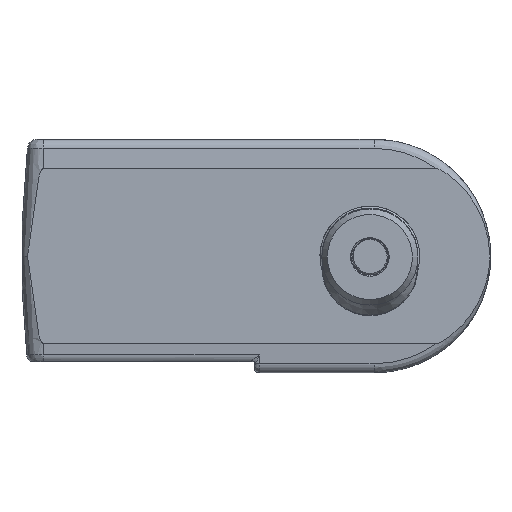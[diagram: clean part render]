
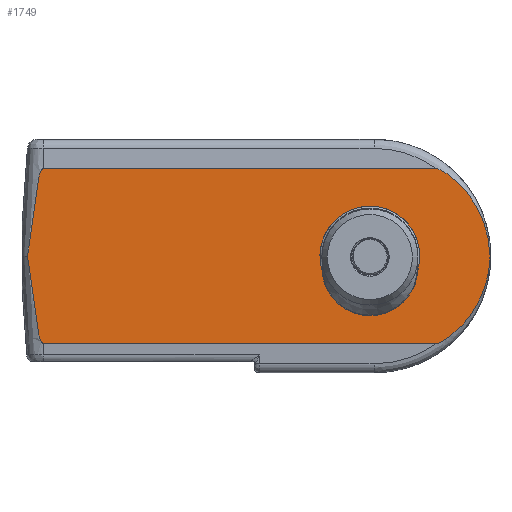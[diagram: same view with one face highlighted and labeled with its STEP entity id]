
A CAD part, front view. The second image highlights one B-rep face of the part: STEP entity #1749.
In plain terms, the highlighted planar face has unit normal (0, -1, 0).
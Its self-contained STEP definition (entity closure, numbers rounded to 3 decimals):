
#306=ELLIPSE('',#18557,55.796,55.66);
#309=ELLIPSE('',#18584,55.796,55.66);
#1749=ADVANCED_FACE('',(#4622,#4623),#2715,.F.);
#2715=PLANE('',#18585);
#3196=B_SPLINE_CURVE_WITH_KNOTS('',3,(#23629,#23630,#23631,#23632,#23633,
#23634,#23635,#23636,#23637,#23638,#23639,#23640,#23641,#23642,#23643,#23644),
 .UNSPECIFIED.,.F.,.F.,(4,2,2,2,2,2,2,4),(0.,0.5,0.75,0.875,0.938,0.969,
0.984,1.),.UNSPECIFIED.);
#3216=B_SPLINE_CURVE_WITH_KNOTS('',3,(#23919,#23920,#23921,#23922,#23923,
#23924,#23925,#23926,#23927,#23928,#23929,#23930,#23931,#23932,#23933,#23934),
 .UNSPECIFIED.,.F.,.F.,(4,2,2,2,2,2,2,4),(0.,0.031,0.063,
0.125,0.25,0.5,0.75,1.),.UNSPECIFIED.);
#3237=B_SPLINE_CURVE_WITH_KNOTS('',3,(#24457,#24458,#24459,#24460,#24461,
#24462,#24463,#24464,#24465,#24466,#24467,#24468,#24469,#24470,#24471,#24472),
 .UNSPECIFIED.,.F.,.F.,(4,2,2,2,2,2,2,4),(0.,0.25,0.5,0.75,0.875,0.938,
0.969,1.),.UNSPECIFIED.);
#3238=B_SPLINE_CURVE_WITH_KNOTS('',3,(#24478,#24479,#24480,#24481,#24482,
#24483,#24484,#24485,#24486,#24487,#24488,#24489,#24490,#24491,#24492,#24493),
 .UNSPECIFIED.,.F.,.F.,(4,2,2,2,2,2,2,4),(0.,0.5,0.75,0.875,0.938,0.969,
0.984,1.),.UNSPECIFIED.);
#4622=FACE_BOUND('',#4961,.T.);
#4623=FACE_BOUND('',#4962,.T.);
#4961=EDGE_LOOP('',(#9123));
#4962=EDGE_LOOP('',(#9124,#9125,#9126,#9127,#9128,#9129,#9130,#9131,#9132));
#6141=LINE('',#23522,#7286);
#6180=LINE('',#24453,#7325);
#6181=LINE('',#24476,#7326);
#7286=VECTOR('',#19582,1.);
#7325=VECTOR('',#19751,1.);
#7326=VECTOR('',#19758,1.);
#9123=ORIENTED_EDGE('',*,*,#15886,.F.);
#9124=ORIENTED_EDGE('',*,*,#15844,.T.);
#9125=ORIENTED_EDGE('',*,*,#15843,.T.);
#9126=ORIENTED_EDGE('',*,*,#15885,.T.);
#9127=ORIENTED_EDGE('',*,*,#15887,.T.);
#9128=ORIENTED_EDGE('',*,*,#15888,.T.);
#9129=ORIENTED_EDGE('',*,*,#15889,.F.);
#9130=ORIENTED_EDGE('',*,*,#15890,.F.);
#9131=ORIENTED_EDGE('',*,*,#15807,.T.);
#9132=ORIENTED_EDGE('',*,*,#15767,.T.);
#14034=VERTEX_POINT('',#23523);
#14035=VERTEX_POINT('',#23524);
#14066=VERTEX_POINT('',#23645);
#14083=VERTEX_POINT('',#23935);
#14084=VERTEX_POINT('',#23936);
#14098=VERTEX_POINT('',#24452);
#14099=VERTEX_POINT('',#24456);
#14100=VERTEX_POINT('',#24473);
#14101=VERTEX_POINT('',#24475);
#14102=VERTEX_POINT('',#24477);
#15767=EDGE_CURVE('',#14034,#14035,#6141,.T.);
#15807=EDGE_CURVE('',#14066,#14034,#3196,.T.);
#15843=EDGE_CURVE('',#14083,#14084,#3216,.T.);
#15844=EDGE_CURVE('',#14035,#14083,#306,.T.);
#15885=EDGE_CURVE('',#14084,#14098,#6180,.T.);
#15886=EDGE_CURVE('',#14099,#14099,#18246,.T.);
#15887=EDGE_CURVE('',#14098,#14100,#3237,.T.);
#15888=EDGE_CURVE('',#14100,#14101,#309,.T.);
#15889=EDGE_CURVE('',#14102,#14101,#6181,.T.);
#15890=EDGE_CURVE('',#14066,#14102,#3238,.T.);
#18246=CIRCLE('',#18583,26.);
#18557=AXIS2_PLACEMENT_3D('',#23937,#19695,#19696);
#18583=AXIS2_PLACEMENT_3D('',#24455,#19754,#19755);
#18584=AXIS2_PLACEMENT_3D('',#24474,#19756,#19757);
#18585=AXIS2_PLACEMENT_3D('',#24494,#19759,#19760);
#19582=DIRECTION('',(1.,0.,0.));
#19695=DIRECTION('',(0.,-0.998,-0.07));
#19696=DIRECTION('',(0.,-0.07,0.998));
#19751=DIRECTION('',(0.,0.,1.));
#19754=DIRECTION('',(0.,-1.,0.));
#19755=DIRECTION('',(0.,0.,1.));
#19756=DIRECTION('',(0.,-0.998,0.07));
#19757=DIRECTION('',(0.,0.07,0.998));
#19758=DIRECTION('',(1.,0.,0.));
#19759=DIRECTION('',(0.,1.,0.));
#19760=DIRECTION('',(0.,0.,1.));
#23522=CARTESIAN_POINT('',(10.12,-87.5,-45.407));
#23523=CARTESIAN_POINT('',(10.12,-87.5,-45.407));
#23524=CARTESIAN_POINT('',(214.842,-87.5,-45.407));
#23629=CARTESIAN_POINT('',(1.893,-87.5,0.));
#23630=CARTESIAN_POINT('',(2.698,-87.5,-7.733));
#23631=CARTESIAN_POINT('',(3.551,-87.5,-15.461));
#23632=CARTESIAN_POINT('',(5.103,-87.5,-27.02));
#23633=CARTESIAN_POINT('',(5.66,-87.5,-30.868));
#23634=CARTESIAN_POINT('',(6.707,-87.5,-36.605));
#23635=CARTESIAN_POINT('',(7.087,-87.5,-38.512));
#23636=CARTESIAN_POINT('',(7.818,-87.5,-41.336));
#23637=CARTESIAN_POINT('',(8.085,-87.5,-42.271));
#23638=CARTESIAN_POINT('',(8.606,-87.5,-43.635));
#23639=CARTESIAN_POINT('',(8.796,-87.5,-44.081));
#23640=CARTESIAN_POINT('',(9.17,-87.5,-44.71));
#23641=CARTESIAN_POINT('',(9.308,-87.5,-44.912));
#23642=CARTESIAN_POINT('',(9.653,-87.5,-45.259));
#23643=CARTESIAN_POINT('',(9.876,-87.5,-45.407));
#23644=CARTESIAN_POINT('',(10.12,-87.5,-45.407));
#23645=CARTESIAN_POINT('',(1.893,-87.5,0.));
#23919=CARTESIAN_POINT('',(214.842,-87.5,-45.407));
#23920=CARTESIAN_POINT('',(215.444,-87.5,-45.404));
#23921=CARTESIAN_POINT('',(215.979,-87.5,-45.136));
#23922=CARTESIAN_POINT('',(217.05,-87.5,-44.659));
#23923=CARTESIAN_POINT('',(217.567,-87.5,-44.39));
#23924=CARTESIAN_POINT('',(219.092,-87.5,-43.537));
#23925=CARTESIAN_POINT('',(220.07,-87.5,-42.903));
#23926=CARTESIAN_POINT('',(222.927,-87.5,-40.873));
#23927=CARTESIAN_POINT('',(224.695,-87.5,-39.369));
#23928=CARTESIAN_POINT('',(229.647,-87.5,-34.54));
#23929=CARTESIAN_POINT('',(232.527,-87.5,-30.827));
#23930=CARTESIAN_POINT('',(237.224,-87.5,-22.859));
#23931=CARTESIAN_POINT('',(239.055,-87.5,-18.577));
#23932=CARTESIAN_POINT('',(241.621,-87.5,-9.646));
#23933=CARTESIAN_POINT('',(242.343,-87.5,-5.082));
#23934=CARTESIAN_POINT('',(242.5,-87.5,-0.42));
#23935=CARTESIAN_POINT('',(214.842,-87.5,-45.407));
#23936=CARTESIAN_POINT('',(242.5,-87.5,-0.42));
#23937=CARTESIAN_POINT('',(182.16,-90.651,-0.353));
#24452=CARTESIAN_POINT('',(242.5,-87.5,0.42));
#24453=CARTESIAN_POINT('',(242.5,-87.5,60.));
#24455=CARTESIAN_POINT('',(180.,-87.5,0.));
#24456=CARTESIAN_POINT('',(180.,-87.5,26.));
#24457=CARTESIAN_POINT('',(242.5,-87.5,0.42));
#24458=CARTESIAN_POINT('',(242.343,-87.5,5.082));
#24459=CARTESIAN_POINT('',(241.621,-87.5,9.646));
#24460=CARTESIAN_POINT('',(239.055,-87.5,18.577));
#24461=CARTESIAN_POINT('',(237.224,-87.5,22.859));
#24462=CARTESIAN_POINT('',(232.527,-87.5,30.827));
#24463=CARTESIAN_POINT('',(229.647,-87.5,34.54));
#24464=CARTESIAN_POINT('',(224.695,-87.5,39.369));
#24465=CARTESIAN_POINT('',(222.927,-87.5,40.873));
#24466=CARTESIAN_POINT('',(220.07,-87.5,42.903));
#24467=CARTESIAN_POINT('',(219.092,-87.5,43.537));
#24468=CARTESIAN_POINT('',(217.567,-87.5,44.39));
#24469=CARTESIAN_POINT('',(217.05,-87.5,44.659));
#24470=CARTESIAN_POINT('',(215.979,-87.5,45.136));
#24471=CARTESIAN_POINT('',(215.444,-87.5,45.404));
#24472=CARTESIAN_POINT('',(214.842,-87.5,45.407));
#24473=CARTESIAN_POINT('',(214.842,-87.5,45.407));
#24474=CARTESIAN_POINT('',(182.16,-90.651,0.353));
#24475=CARTESIAN_POINT('',(214.842,-87.5,45.407));
#24476=CARTESIAN_POINT('',(-2.125,-87.5,45.407));
#24477=CARTESIAN_POINT('',(10.12,-87.5,45.407));
#24478=CARTESIAN_POINT('',(1.893,-87.5,0.));
#24479=CARTESIAN_POINT('',(2.698,-87.5,7.731));
#24480=CARTESIAN_POINT('',(3.551,-87.5,15.458));
#24481=CARTESIAN_POINT('',(5.102,-87.5,27.014));
#24482=CARTESIAN_POINT('',(5.659,-87.5,30.862));
#24483=CARTESIAN_POINT('',(6.705,-87.5,36.597));
#24484=CARTESIAN_POINT('',(7.086,-87.5,38.505));
#24485=CARTESIAN_POINT('',(7.815,-87.5,41.326));
#24486=CARTESIAN_POINT('',(8.083,-87.5,42.265));
#24487=CARTESIAN_POINT('',(8.601,-87.5,43.624));
#24488=CARTESIAN_POINT('',(8.791,-87.5,44.069));
#24489=CARTESIAN_POINT('',(9.162,-87.5,44.698));
#24490=CARTESIAN_POINT('',(9.303,-87.5,44.905));
#24491=CARTESIAN_POINT('',(9.648,-87.5,45.256));
#24492=CARTESIAN_POINT('',(9.87,-87.5,45.407));
#24493=CARTESIAN_POINT('',(10.12,-87.5,45.407));
#24494=CARTESIAN_POINT('',(-1.,-87.5,60.));
